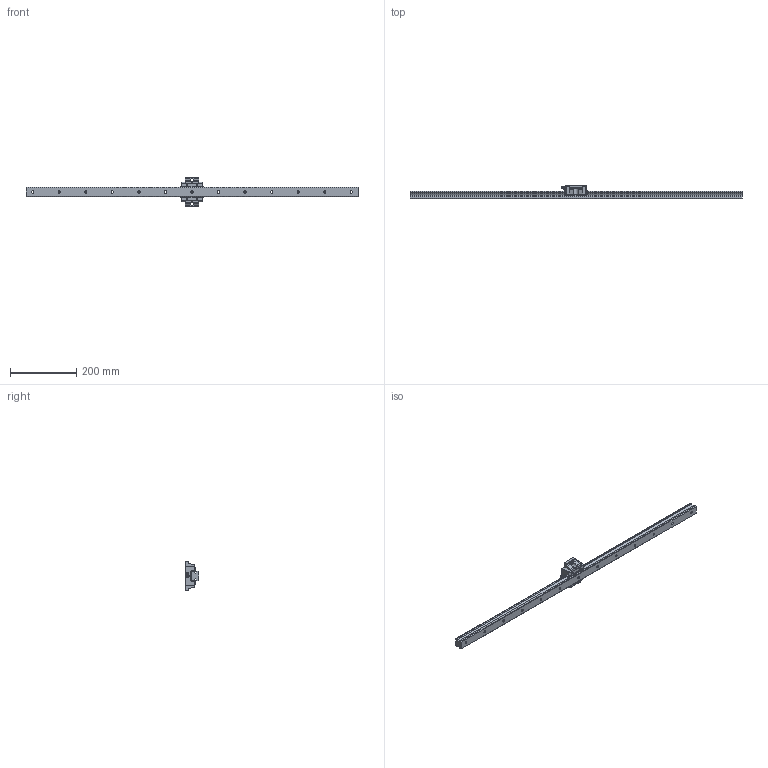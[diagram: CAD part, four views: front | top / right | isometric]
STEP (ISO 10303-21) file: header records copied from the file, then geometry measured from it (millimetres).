
FILE_DESCRIPTION(/* description */ ('STEP AP214'),/* implementation_level */ '2;1');
FILE_NAME(/* name */ 'SR30SB1SS-1000L_G20_0_B-M6F_466-05_0_0_0',/* time_stamp */ '2023-08-14T11:29:30+02:00',/* author */ ('License CC BY-ND 4.0'),/* organization */ ('CADENAS'),/* preprocessor_version */ 'ST-DEVELOPER v19.3',/* originating_system */ 'PARTsolutions',/* authorisation */ ' ');
FILE_SCHEMA (('AUTOMOTIVE_DESIGN {1 0 10303 214 3 1 1}'));
Length unit declared in the file: millimetre
Products named in the file (4): SR30SB1SS-1000L_G20_0_B-M6F_466-05_0_0_0_; SR-B-M6F_grease_nipple_joint; SR30SBSSB-M6F Slide15-150; SR30TB100020 SB Track
Assembly tree (3 placements, depth 2):
  SR30SB1SS-1000L_G20_0_B-M6F_466-05_0_0_0_
    SR-B-M6F_grease_nipple_joint
    SR30SBSSB-M6F Slide15-150
    SR30TB100020 SB Track
Bounding box: 1000 x 42 x 90 mm (x, y, z)
Volume: 653168.1 mm3; surface area: 139244.4 mm2
Topology: 3 solids, 3 shells, 239 faces, 622 edges, 407 vertices
Faces by surface type: plane 159, cylinder 58, cone 13, torus 6, sphere 3
Full cylindrical faces by diameter (mm): 4.5 x4, 4.917 x2, 6 x1, 7 x13, 8 x1, 9 x2, 11 x13
Entity records: 7173 total; most frequent: CARTESIAN_POINT 1324, DIRECTION 1162, ORIENTED_EDGE 1124, EDGE_CURVE 562, VERTEX_POINT 401, LINE 392, VECTOR 392, AXIS2_PLACEMENT_3D 385
